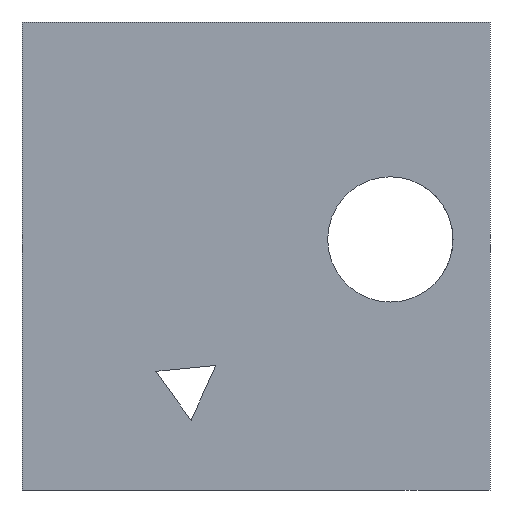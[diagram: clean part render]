
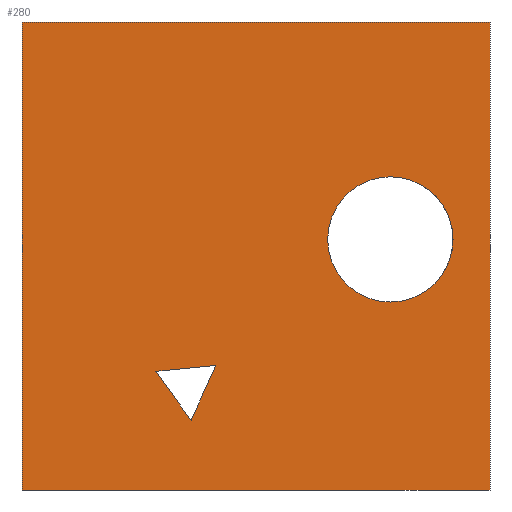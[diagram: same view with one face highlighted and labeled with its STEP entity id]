
A CAD part, front view. The second image highlights one B-rep face of the part: STEP entity #280.
In plain terms, the highlighted planar face has unit normal (0, -1, 0).
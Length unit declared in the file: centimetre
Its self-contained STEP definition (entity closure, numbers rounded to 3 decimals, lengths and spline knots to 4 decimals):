
#10 = DIRECTION ( 'NONE',  ( 0., 1., 0. ) ) ;
#36 = EDGE_CURVE ( 'NONE', #991, #663, #629, .T. ) ;
#37 = EDGE_CURVE ( 'NONE', #596, #991, #1032, .T. ) ;
#48 = ORIENTED_EDGE ( 'NONE', *, *, #941, .T. ) ;
#54 = DIRECTION ( 'NONE',  ( 1., 0., 0. ) ) ;
#63 = VERTEX_POINT ( 'NONE', #946 ) ;
#75 = CARTESIAN_POINT ( 'NONE',  ( 0., 0., 1000. ) ) ;
#103 = DIRECTION ( 'NONE',  ( 0., 0., 1. ) ) ;
#117 = AXIS2_PLACEMENT_3D ( 'NONE', #387, #636, #955 ) ;
#125 = CARTESIAN_POINT ( 'NONE',  ( 1000., 0., 1000. ) ) ;
#128 = LINE ( 'NONE', #634, #602 ) ;
#160 = EDGE_CURVE ( 'NONE', #596, #212, #862, .T. ) ;
#169 = EDGE_CURVE ( 'NONE', #802, #510, #128, .T. ) ;
#206 = EDGE_LOOP ( 'NONE', ( #761, #936 ) ) ;
#212 = VERTEX_POINT ( 'NONE', #1056 ) ;
#213 = CARTESIAN_POINT ( 'NONE',  ( 0., 0., 1000. ) ) ;
#218 = EDGE_CURVE ( 'NONE', #559, #802, #569, .T. ) ;
#255 = FACE_BOUND ( 'NONE', #489, .T. ) ;
#270 = PLANE ( 'NONE',  #872 ) ;
#280 = ADVANCED_FACE ( 'NONE', ( #560, #255, #995 ), #270, .F. ) ;
#283 = ORIENTED_EDGE ( 'NONE', *, *, #169, .T. ) ;
#296 = DIRECTION ( 'NONE',  ( 0., 0., -1. ) ) ;
#304 = CARTESIAN_POINT ( 'NONE',  ( 787.1011, 0., 535.3978 ) ) ;
#310 = VECTOR ( 'NONE', #54, 100. ) ;
#312 = DIRECTION ( 'NONE',  ( 0., 1., 0. ) ) ;
#322 = DIRECTION ( 'NONE',  ( 0., 0., 1. ) ) ;
#333 = ORIENTED_EDGE ( 'NONE', *, *, #160, .T. ) ;
#343 = VECTOR ( 'NONE', #972, 100. ) ;
#347 = CARTESIAN_POINT ( 'NONE',  ( 414.2583, 0., 266.2009 ) ) ;
#352 = CARTESIAN_POINT ( 'NONE',  ( 787.1011, 0., 401.5125 ) ) ;
#362 = VERTEX_POINT ( 'NONE', #352 ) ;
#372 = CARTESIAN_POINT ( 'NONE',  ( 361.1526, 0., 148.9303 ) ) ;
#373 = DIRECTION ( 'NONE',  ( 0., 0., -1. ) ) ;
#382 = VECTOR ( 'NONE', #296, 100. ) ;
#387 = CARTESIAN_POINT ( 'NONE',  ( 787.1011, 0., 535.3978 ) ) ;
#461 = CIRCLE ( 'NONE', #117, 133.8853 ) ;
#464 = VECTOR ( 'NONE', #531, 100. ) ;
#474 = DIRECTION ( 'NONE',  ( -0.583, 0., 0.813 ) ) ;
#489 = EDGE_LOOP ( 'NONE', ( #736, #283, #1024 ) ) ;
#510 = VERTEX_POINT ( 'NONE', #372 ) ;
#531 = DIRECTION ( 'NONE',  ( 1., 0., 0. ) ) ;
#540 = DIRECTION ( 'NONE',  ( -0.413, 0., -0.911 ) ) ;
#559 = VERTEX_POINT ( 'NONE', #849 ) ;
#560 = FACE_BOUND ( 'NONE', #206, .T. ) ;
#569 = LINE ( 'NONE', #891, #343 ) ;
#576 = ORIENTED_EDGE ( 'NONE', *, *, #36, .F. ) ;
#584 = AXIS2_PLACEMENT_3D ( 'NONE', #304, #312, #322 ) ;
#585 = CARTESIAN_POINT ( 'NONE',  ( 0., 0., 1000. ) ) ;
#596 = VERTEX_POINT ( 'NONE', #75 ) ;
#602 = VECTOR ( 'NONE', #540, 100. ) ;
#610 = CARTESIAN_POINT ( 'NONE',  ( 0., 0., 0. ) ) ;
#629 = LINE ( 'NONE', #1036, #780 ) ;
#634 = CARTESIAN_POINT ( 'NONE',  ( 361.1526, 0., 148.9303 ) ) ;
#636 = DIRECTION ( 'NONE',  ( 0., 1., 0. ) ) ;
#649 = CARTESIAN_POINT ( 'NONE',  ( 286.1461, 0., 253.5565 ) ) ;
#651 = EDGE_LOOP ( 'NONE', ( #48, #576, #820, #333 ) ) ;
#658 = EDGE_CURVE ( 'NONE', #63, #362, #670, .T. ) ;
#663 = VERTEX_POINT ( 'NONE', #1054 ) ;
#670 = CIRCLE ( 'NONE', #584, 133.8853 ) ;
#708 = VECTOR ( 'NONE', #474, 100. ) ;
#712 = EDGE_CURVE ( 'NONE', #362, #63, #461, .T. ) ;
#734 = LINE ( 'NONE', #649, #708 ) ;
#736 = ORIENTED_EDGE ( 'NONE', *, *, #218, .T. ) ;
#761 = ORIENTED_EDGE ( 'NONE', *, *, #658, .T. ) ;
#780 = VECTOR ( 'NONE', #373, 100. ) ;
#802 = VERTEX_POINT ( 'NONE', #347 ) ;
#820 = ORIENTED_EDGE ( 'NONE', *, *, #37, .F. ) ;
#848 = LINE ( 'NONE', #610, #464 ) ;
#849 = CARTESIAN_POINT ( 'NONE',  ( 286.1461, 0., 253.5565 ) ) ;
#856 = CARTESIAN_POINT ( 'NONE',  ( 0., 0., 1000. ) ) ;
#862 = LINE ( 'NONE', #856, #382 ) ;
#872 = AXIS2_PLACEMENT_3D ( 'NONE', #585, #10, #103 ) ;
#891 = CARTESIAN_POINT ( 'NONE',  ( 414.2583, 0., 266.2009 ) ) ;
#936 = ORIENTED_EDGE ( 'NONE', *, *, #712, .T. ) ;
#941 = EDGE_CURVE ( 'NONE', #212, #663, #848, .T. ) ;
#946 = CARTESIAN_POINT ( 'NONE',  ( 787.1011, 0., 669.2831 ) ) ;
#955 = DIRECTION ( 'NONE',  ( 0., 0., 1. ) ) ;
#972 = DIRECTION ( 'NONE',  ( 0.995, 0., 0.098 ) ) ;
#991 = VERTEX_POINT ( 'NONE', #125 ) ;
#995 = FACE_OUTER_BOUND ( 'NONE', #651, .T. ) ;
#1001 = EDGE_CURVE ( 'NONE', #510, #559, #734, .T. ) ;
#1024 = ORIENTED_EDGE ( 'NONE', *, *, #1001, .T. ) ;
#1032 = LINE ( 'NONE', #213, #310 ) ;
#1036 = CARTESIAN_POINT ( 'NONE',  ( 1000., 0., 1000. ) ) ;
#1054 = CARTESIAN_POINT ( 'NONE',  ( 1000., 0., 0. ) ) ;
#1056 = CARTESIAN_POINT ( 'NONE',  ( 0., 0., 0. ) ) ;
